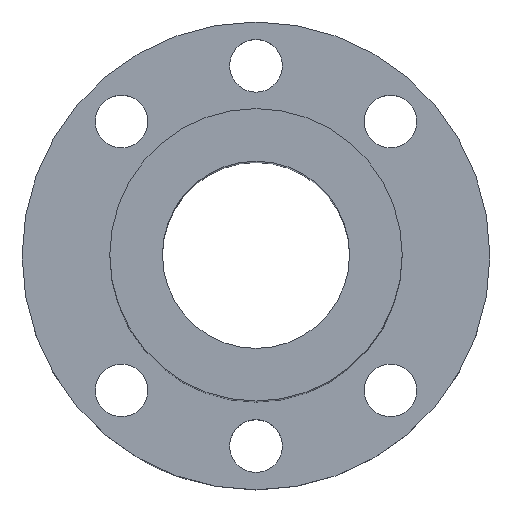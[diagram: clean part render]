
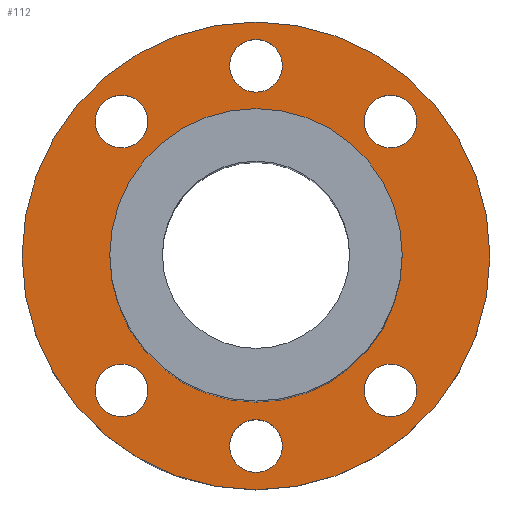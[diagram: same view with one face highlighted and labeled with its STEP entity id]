
A CAD part, top view. The second image highlights one B-rep face of the part: STEP entity #112.
In plain terms, the highlighted planar face has unit normal (0, 0, 1).
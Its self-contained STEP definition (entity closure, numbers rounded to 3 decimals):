
#99=PLANE('',#355);
#112=ADVANCED_FACE('',(#159,#160,#161,#162,#163,#164,#165,#166),#99,.T.);
#159=FACE_BOUND('',#203,.T.);
#160=FACE_BOUND('',#204,.T.);
#161=FACE_BOUND('',#205,.T.);
#162=FACE_BOUND('',#206,.T.);
#163=FACE_BOUND('',#207,.T.);
#164=FACE_BOUND('',#208,.T.);
#165=FACE_BOUND('',#209,.T.);
#166=FACE_BOUND('',#210,.T.);
#203=EDGE_LOOP('',(#247));
#204=EDGE_LOOP('',(#248));
#205=EDGE_LOOP('',(#249));
#206=EDGE_LOOP('',(#250));
#207=EDGE_LOOP('',(#251));
#208=EDGE_LOOP('',(#252));
#209=EDGE_LOOP('',(#253));
#210=EDGE_LOOP('',(#254));
#247=ORIENTED_EDGE('',*,*,#284,.T.);
#248=ORIENTED_EDGE('',*,*,#301,.F.);
#249=ORIENTED_EDGE('',*,*,#300,.F.);
#250=ORIENTED_EDGE('',*,*,#299,.T.);
#251=ORIENTED_EDGE('',*,*,#298,.T.);
#252=ORIENTED_EDGE('',*,*,#286,.T.);
#253=ORIENTED_EDGE('',*,*,#297,.F.);
#254=ORIENTED_EDGE('',*,*,#302,.T.);
#262=VERTEX_POINT('',#437);
#264=VERTEX_POINT('',#499);
#275=VERTEX_POINT('',#582);
#276=VERTEX_POINT('',#585);
#277=VERTEX_POINT('',#588);
#278=VERTEX_POINT('',#591);
#279=VERTEX_POINT('',#594);
#280=VERTEX_POINT('',#597);
#284=EDGE_CURVE('',#262,#262,#306,.T.);
#286=EDGE_CURVE('',#264,#264,#307,.T.);
#297=EDGE_CURVE('',#275,#275,#317,.T.);
#298=EDGE_CURVE('',#276,#276,#318,.T.);
#299=EDGE_CURVE('',#277,#277,#319,.T.);
#300=EDGE_CURVE('',#278,#278,#320,.T.);
#301=EDGE_CURVE('',#279,#279,#321,.T.);
#302=EDGE_CURVE('',#280,#280,#322,.T.);
#306=CIRCLE('',#327,40.);
#307=CIRCLE('',#329,25.);
#317=CIRCLE('',#343,4.5);
#318=CIRCLE('',#345,4.5);
#319=CIRCLE('',#347,4.5);
#320=CIRCLE('',#349,4.5);
#321=CIRCLE('',#351,4.5);
#322=CIRCLE('',#353,4.5);
#327=AXIS2_PLACEMENT_3D('',#436,#365,#366);
#329=AXIS2_PLACEMENT_3D('',#498,#369,#370);
#343=AXIS2_PLACEMENT_3D('',#581,#397,#398);
#345=AXIS2_PLACEMENT_3D('',#584,#401,#402);
#347=AXIS2_PLACEMENT_3D('',#587,#405,#406);
#349=AXIS2_PLACEMENT_3D('',#590,#409,#410);
#351=AXIS2_PLACEMENT_3D('',#593,#413,#414);
#353=AXIS2_PLACEMENT_3D('',#596,#417,#418);
#355=AXIS2_PLACEMENT_3D('',#599,#421,#422);
#365=DIRECTION('',(0.,0.,1.));
#366=DIRECTION('',(1.,0.,0.));
#369=DIRECTION('',(0.,0.,-1.));
#370=DIRECTION('',(1.,0.,0.));
#397=DIRECTION('',(0.,0.,1.));
#398=DIRECTION('',(-1.,0.,0.));
#401=DIRECTION('',(0.,0.,-1.));
#402=DIRECTION('',(-1.,0.,0.));
#405=DIRECTION('',(0.,0.,-1.));
#406=DIRECTION('',(1.,0.,0.));
#409=DIRECTION('',(0.,0.,1.));
#410=DIRECTION('',(1.,0.,0.));
#413=DIRECTION('',(0.,0.,1.));
#414=DIRECTION('',(1.,0.,0.));
#417=DIRECTION('',(0.,0.,-1.));
#418=DIRECTION('',(1.,0.,0.));
#421=DIRECTION('',(0.,0.,1.));
#422=DIRECTION('',(1.,0.,0.));
#436=CARTESIAN_POINT('',(0.,0.,12.));
#437=CARTESIAN_POINT('',(40.,0.,12.));
#498=CARTESIAN_POINT('',(0.,0.,12.));
#499=CARTESIAN_POINT('',(25.,0.,12.));
#581=CARTESIAN_POINT('',(22.981,-22.981,12.));
#582=CARTESIAN_POINT('',(18.481,-22.981,12.));
#584=CARTESIAN_POINT('',(22.981,22.981,12.));
#585=CARTESIAN_POINT('',(18.481,22.981,12.));
#587=CARTESIAN_POINT('',(-22.981,-22.981,12.));
#588=CARTESIAN_POINT('',(-18.481,-22.981,12.));
#590=CARTESIAN_POINT('',(-22.981,22.981,12.));
#591=CARTESIAN_POINT('',(-18.481,22.981,12.));
#593=CARTESIAN_POINT('',(0.,32.5,12.));
#594=CARTESIAN_POINT('',(4.5,32.5,12.));
#596=CARTESIAN_POINT('',(0.,-32.5,12.));
#597=CARTESIAN_POINT('',(4.5,-32.5,12.));
#599=CARTESIAN_POINT('',(0.,16.25,12.));
